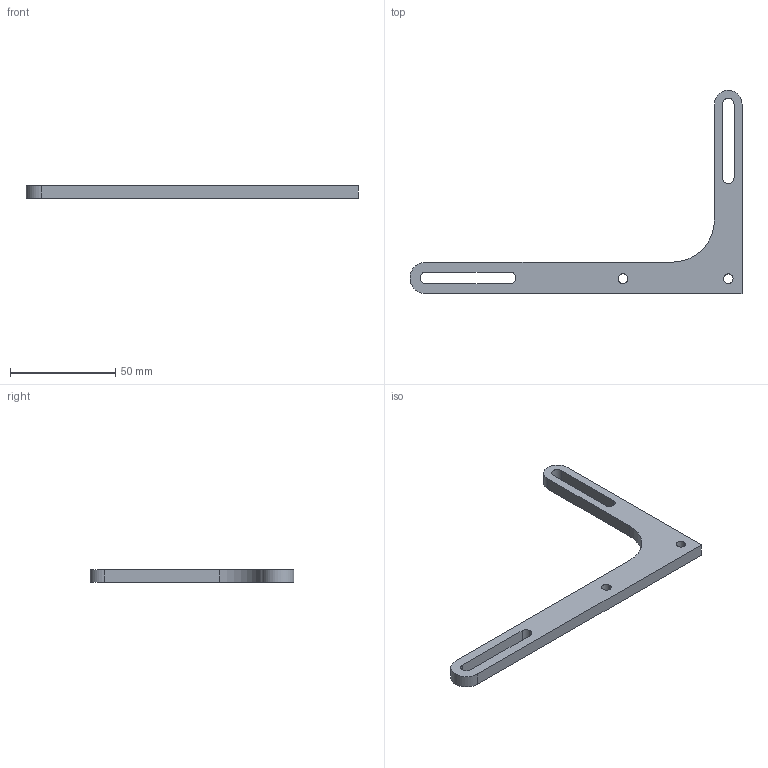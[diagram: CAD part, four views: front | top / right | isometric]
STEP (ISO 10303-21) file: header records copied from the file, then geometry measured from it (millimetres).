
FILE_DESCRIPTION(/* description */ (''),/* implementation_level */ '2;1');
FILE_NAME(/* name */ 'PSU Mount x2 v1.step',/* time_stamp */ '2023-03-23T06:37:37-06:00',/* author */ (''),/* organization */ (''),/* preprocessor_version */ 'ST-DEVELOPER v19.2',/* originating_system */ 'Autodesk Translation Framework v11.17.0.187',/* authorisation */ '');
FILE_SCHEMA (('AUTOMOTIVE_DESIGN { 1 0 10303 214 3 1 1 }'));
Length unit declared in the file: millimetre
Products named in the file (2): PSU Mount x2; PSU Mount
Assembly tree (1 placements, depth 2):
  PSU Mount x2
    PSU Mount
Bounding box: 157.5 x 96.53 x 6 mm (x, y, z)
Volume: 17872.8 mm3; surface area: 10161.2 mm2
Topology: 1 solids, 1 shells, 21 faces, 57 edges, 38 vertices
Faces by surface type: cylinder 11, plane 10
Entity records: 742 total; most frequent: DIRECTION 127, CARTESIAN_POINT 119, ORIENTED_EDGE 114, EDGE_CURVE 57, AXIS2_PLACEMENT_3D 46, VERTEX_POINT 38, LINE 35, VECTOR 35
